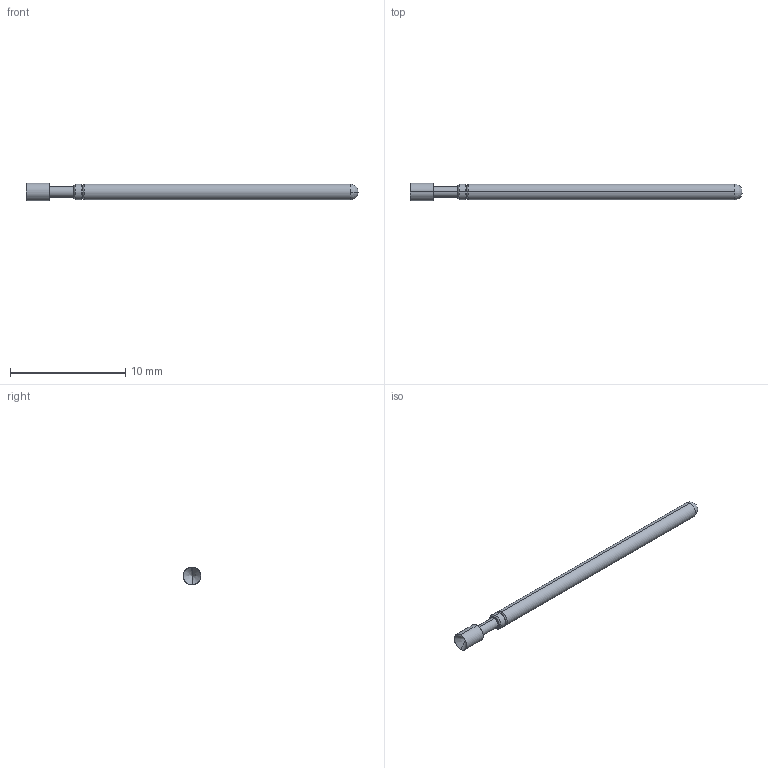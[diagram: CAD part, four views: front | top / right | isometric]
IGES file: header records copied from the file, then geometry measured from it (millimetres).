
Start section: SolidWorks IGES file using analytic representation for surfaces
Global section: file name: Z:\probe solid model mockups\Solidworks models\IGES Files\HCP-25 IGES files\HCP-25A RECD.IGS; native system: SolidWorks 2006 by SolidWorks Corporation; preprocessor: SolidWorks 2006 by SolidWorks Corporation; author: tsakatani; date: 080102.152056; units: inch
Bounding box: 28.78 x 1.52 x 1.52 mm (x, y, z)
Surface area: 126.6 mm2 (no closed solid volume)
Topology: 0 solids, 0 shells, 23 faces, 164 edges, 162 vertices
Faces by surface type: revolution 16, bspline 7
